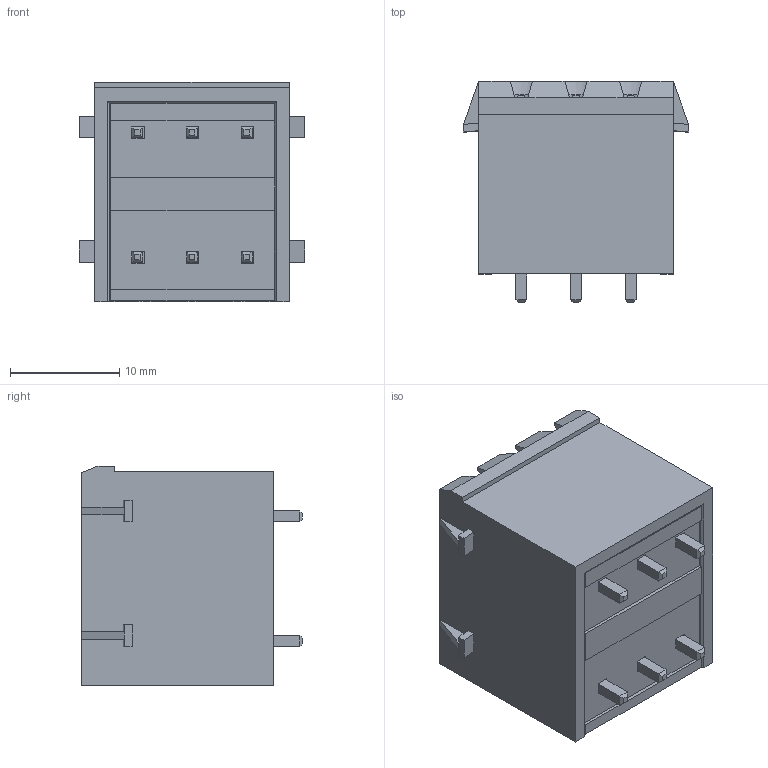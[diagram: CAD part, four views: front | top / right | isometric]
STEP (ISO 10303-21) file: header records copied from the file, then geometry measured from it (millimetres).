
FILE_DESCRIPTION((''),'2;1');
FILE_NAME('333','2019-04-12T',('zhenbing.lai'),(''),'CREO PARAMETRIC BY PTC INC, 2016260','CREO PARAMETRIC BY PTC INC, 2016260','');
FILE_SCHEMA(('CONFIG_CONTROL_DESIGN'));
Length unit declared in the file: millimetre
Products named in the file (1): 333
Bounding box: 20.6 x 20.2 x 20.1 mm (x, y, z)
Volume: 4393.9 mm3; surface area: 3427 mm2
Topology: 1 solids, 1 shells, 506 faces, 1403 edges, 906 vertices
Faces by surface type: plane 438, cylinder 56, cone 12
Entity records: 16319 total; most frequent: CARTESIAN_POINT 3501, ORIENTED_EDGE 2806, DIRECTION 2400, EDGE_CURVE 1403, VECTOR 1184, LINE 1184, VERTEX_POINT 906, AXIS2_PLACEMENT_3D 608
